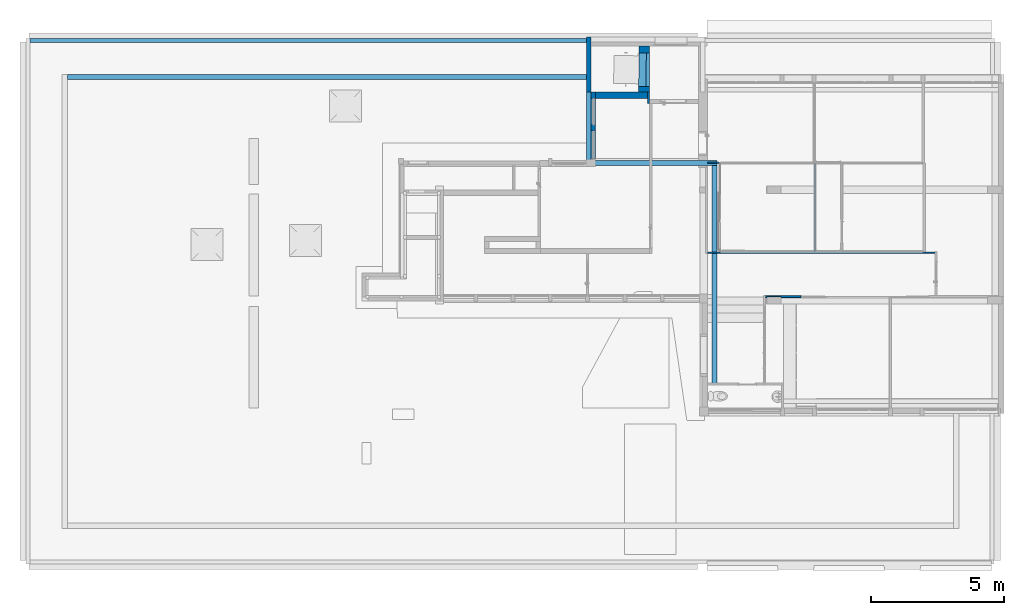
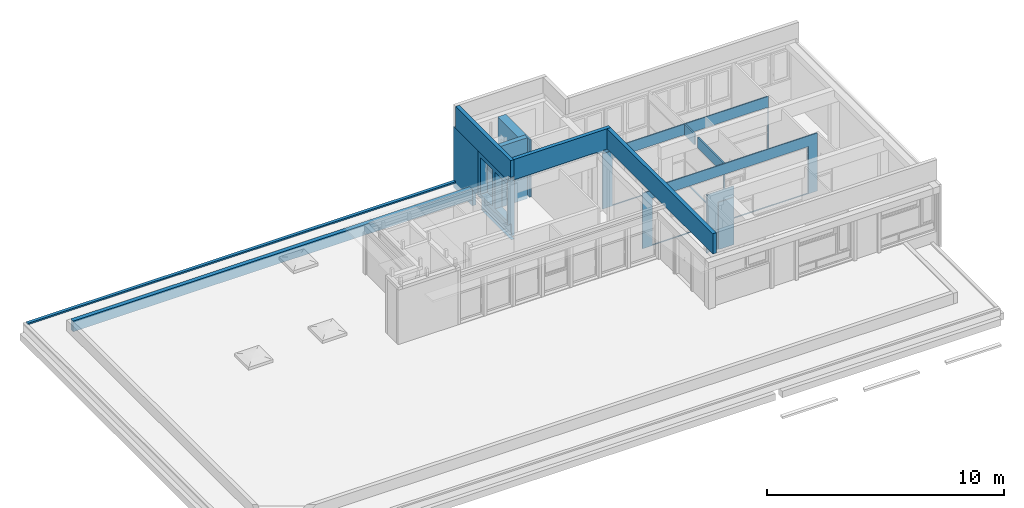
# One storey, part 34 of 49: 14 walls, 3 openings.
"""IFC4 building model written with IfcOpenShell, lengths in metres."""

from ifc_helpers import new_model, entity, si_unit, converted_unit, derived_unit, direction, frame, origin, place, context, subcontext, project, spatial, indexed_curve, outline, extrude, polygons, material, layer, layer_set, type_object, element, save


model = new_model("IFC4")

# Units and contexts
model_context = context("Model", 3, precision=1e-05, world=origin(), true_north=direction((6.12303176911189e-17, 1.0)))
body_context = subcontext(model_context, "Body", "Model", "MODEL_VIEW")
ifc_project = project(units=[si_unit("LENGTHUNIT", "METRE"), si_unit("AREAUNIT", "SQUARE_METRE"), si_unit("VOLUMEUNIT", "CUBIC_METRE"), converted_unit("PLANEANGLEUNIT", "DEGREE", entity("IfcRatioMeasure", 0.0174532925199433), si_unit("PLANEANGLEUNIT", "RADIAN"), dimensions=[0, 0, 0, 0, 0, 0, 0]), si_unit("MASSUNIT", "GRAM", prefix="KILO"), derived_unit("MASSDENSITYUNIT", [(si_unit("MASSUNIT", "GRAM", prefix="KILO"), 1), (si_unit("LENGTHUNIT", "METRE"), -3)]), derived_unit("MOMENTOFINERTIAUNIT", [(si_unit("LENGTHUNIT", "METRE"), 4)]), si_unit("TIMEUNIT", "SECOND"), si_unit("FREQUENCYUNIT", "HERTZ"), si_unit("THERMODYNAMICTEMPERATUREUNIT", "DEGREE_CELSIUS"), derived_unit("THERMALTRANSMITTANCEUNIT", [(si_unit("MASSUNIT", "GRAM", prefix="KILO"), 1), (si_unit("THERMODYNAMICTEMPERATUREUNIT", "KELVIN"), -1), (si_unit("TIMEUNIT", "SECOND"), -3)]), derived_unit("VOLUMETRICFLOWRATEUNIT", [(si_unit("LENGTHUNIT", "METRE"), 3), (si_unit("TIMEUNIT", "SECOND"), -1)]), si_unit("ELECTRICCURRENTUNIT", "AMPERE"), si_unit("ELECTRICVOLTAGEUNIT", "VOLT"), si_unit("POWERUNIT", "WATT"), si_unit("FORCEUNIT", "NEWTON", prefix="KILO"), si_unit("ILLUMINANCEUNIT", "LUX"), si_unit("LUMINOUSFLUXUNIT", "LUMEN"), si_unit("LUMINOUSINTENSITYUNIT", "CANDELA"), derived_unit("USERDEFINED", [(si_unit("MASSUNIT", "GRAM", prefix="KILO"), -1), (si_unit("LENGTHUNIT", "METRE"), -2), (si_unit("TIMEUNIT", "SECOND"), 3), (si_unit("LUMINOUSFLUXUNIT", "LUMEN"), 1)]), derived_unit("LINEARVELOCITYUNIT", [(si_unit("LENGTHUNIT", "METRE"), 1), (si_unit("TIMEUNIT", "SECOND"), -1)]), si_unit("PRESSUREUNIT", "PASCAL"), derived_unit("USERDEFINED", [(si_unit("LENGTHUNIT", "METRE"), -2), (si_unit("MASSUNIT", "GRAM", prefix="KILO"), 1), (si_unit("TIMEUNIT", "SECOND"), -2)]), derived_unit("LINEARFORCEUNIT", [(si_unit("MASSUNIT", "GRAM", prefix="KILO"), 1), (si_unit("LENGTHUNIT", "METRE"), 1), (si_unit("TIMEUNIT", "SECOND"), -2), (si_unit("LENGTHUNIT", "METRE"), -1)]), derived_unit("PLANARFORCEUNIT", [(si_unit("MASSUNIT", "GRAM", prefix="KILO"), 1), (si_unit("LENGTHUNIT", "METRE"), 1), (si_unit("TIMEUNIT", "SECOND"), -2), (si_unit("LENGTHUNIT", "METRE"), -2)])], contexts=[model_context])

# Site, building, storey
site_placement = place(None, origin())
site = spatial("IfcSite", under=ifc_project, at=site_placement, Name="Default", CompositionType="ELEMENT")
building_placement = place(site_placement, origin())
building = spatial("IfcBuilding", under=site, at=building_placement, Name="HOTEL CONSULAIRE BOULOGNE SUR MER", CompositionType="ELEMENT")
storey_placement = place(building_placement, frame((0.0, 0.0, 6.81974152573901)))
storey = spatial("IfcBuildingStorey", under=building, at=storey_placement, Name="Niveau 2", CompositionType="ELEMENT", Elevation=6.81974152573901)

# Wall
ifc_material = material(Name="Mur par défaut", Category="Divers")
ifc_layer_1 = layer(ifc_material, 0.05, Name="Mur par défaut", Category="Divers")
ifc_layer_set_1 = layer_set([ifc_layer_1], Name="Mur de base:Générique - Int.50")
wall_type_1 = type_object("IfcWallType", Name="Mur de base:Générique - Int.50", PredefinedType="NOTDEFINED", material=ifc_layer_set_1)
wall_1_placement = place(storey_placement, frame((19.762075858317, -14.6264237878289, -0.0349999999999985), z_axis=(0.0, 0.0, 1.0), x_axis=(-1.0, 0.0, 0.0)))
element("IfcWall", 1, at=wall_1_placement, inside=storey, type_object=wall_type_1, material=ifc_layer_set_1, Name="Mur de base:Générique - Int.50", ObjectType="Mur de base:Générique - Int.50", PredefinedType="NOTDEFINED", context=body_context, shape_type="Tessellation", body=[
    polygons([(0.0392543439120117, 0.0, -1.08286712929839e-15), (0.0392543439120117, -0.0249999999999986, -1.08286712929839e-15), (0.0392543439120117, -0.0249999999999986, 0.0349999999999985), (0.0392543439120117, 0.0, 0.0349999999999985), (4.031, -0.0249999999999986, -1.08286712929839e-15), (4.101, -0.0249999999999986, -1.08286712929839e-15), (8.09111728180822, -0.0249999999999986, -1.08286712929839e-15), (8.09111728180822, -0.0249999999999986, 2.99200000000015), (4.101, -0.0249999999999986, 2.99200000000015), (4.031, -0.0249999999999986, 2.99200000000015), (0.0392543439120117, -0.0249999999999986, 2.99200000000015), (0.0392543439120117, -0.0249999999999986, 2.437), (4.031, -0.0249999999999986, 2.437), (4.101, -0.0249999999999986, 2.437), (7.597, -0.0249999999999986, 2.437), (7.597, -0.0249999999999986, 0.0349999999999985), (4.101, -0.0249999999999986, 0.0349999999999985), (4.031, -0.0249999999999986, 0.0349999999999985), (8.09111728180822, 0.0250000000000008, -1.08286712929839e-15), (0.0, 0.0250000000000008, -1.08286712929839e-15), (0.0, 0.0250000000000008, 2.99200000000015), (7.73513233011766, 0.0250000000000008, 2.99200000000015), (7.73513233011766, 0.0250000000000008, 2.857), (8.08016716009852, 0.0250000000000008, 2.857), (8.08016716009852, 0.0250000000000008, 2.99200000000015), (8.09111728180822, 0.0250000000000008, 2.99200000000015), (0.0392543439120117, 0.0250000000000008, 2.437), (0.0392543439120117, 0.0250000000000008, 0.0349999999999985), (7.597, 0.0250000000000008, 0.0349999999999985), (7.597, 0.0250000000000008, 2.437), (0.0, 0.0, -1.08286712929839e-15), (8.08016716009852, 0.00666314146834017, 2.99200000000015), (7.73513233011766, 0.00666314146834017, 2.99200000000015), (0.0, 0.0, 2.99200000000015), (0.0392543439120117, 0.0, 2.99200000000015), (0.0392543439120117, 0.0, 2.437), (7.73513233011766, 0.00666314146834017, 2.857), (8.08016716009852, 0.00666314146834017, 2.857)], [[[4, 1, 2, 3]], [[35, 36, 12, 11]], [[21, 20, 31, 34]], [[15, 30, 29, 16]], [[25, 24, 38, 32]], [[3, 2, 5, 6, 7, 8, 9, 10, 11, 12, 13, 14, 15, 16, 17, 18]], [[34, 31, 1, 4, 36, 35]], [[24, 25, 26, 19, 20, 21, 22, 23], [30, 27, 28, 29]], [[38, 37, 33, 32]], [[5, 2, 1, 31, 20, 19, 7, 6]], [[27, 30, 15, 14, 13, 12, 36]], [[10, 9, 8, 26, 25, 32, 33, 22, 21, 34, 35, 11]], [[18, 17, 16, 29, 28, 4, 3]], [[38, 24, 23, 37]], [[7, 19, 26, 8]], [[4, 28, 27, 36]], [[33, 37, 23, 22]]], closed=True),
])

# Wall, opening
wall_2_placement = place(storey_placement, frame((20.2083568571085, -17.9998875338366, -0.0349999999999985), z_axis=(0.0, 0.0, 1.0), x_axis=(-1.0, 0.0, 0.0)))
wall_2 = element("IfcWall", 2, at=wall_2_placement, inside=storey, type_object=wall_type_1, material=ifc_layer_set_1, Name="Mur de base:Générique - Int.50", ObjectType="Mur de base:Générique - Int.50", PredefinedType="NOTDEFINED", context=body_context, shape_type="Tessellation", body=[
    polygons([(6.53205204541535e-17, -0.0249999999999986, -1.08286712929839e-15), (8.53739828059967, -0.0249999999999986, -1.08286712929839e-15), (8.53739828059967, -0.0249999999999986, 3.087), (8.52644815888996, -0.0249999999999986, 3.087), (8.52644815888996, -0.0249999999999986, 2.857), (8.18141332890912, -0.0249999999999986, 2.857), (8.18141332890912, -0.0249999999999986, 2.99200000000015), (6.53205204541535e-17, -0.0249999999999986, 2.99200000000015), (0.446280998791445, -0.0249999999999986, 0.0349999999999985), (0.446280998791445, -0.0249999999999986, 2.437), (8.05288957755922, -0.0250000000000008, 2.437), (8.05288957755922, -0.0250000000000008, 0.0349999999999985), (8.53739828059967, 0.0250000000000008, -1.08286712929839e-15), (-2.35714443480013e-16, 0.0250000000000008, -1.08286712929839e-15), (-2.35714443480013e-16, 0.0250000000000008, 2.99200000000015), (8.18141332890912, 0.0250000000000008, 2.99200000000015), (8.18141332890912, 0.0250000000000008, 2.857), (8.52644815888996, 0.0250000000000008, 2.857), (8.52644815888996, 0.0250000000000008, 3.087), (8.53739828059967, 0.0250000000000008, 3.087), (8.53739828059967, 0.0250000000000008, 2.747), (8.53739828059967, 0.0250000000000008, 0.0349999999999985), (0.446280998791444, 0.0250000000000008, 2.437), (0.446280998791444, 0.0250000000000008, 0.0349999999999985), (8.05288957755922, 0.0249999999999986, 0.0349999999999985), (8.05288957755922, 0.0249999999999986, 2.437)], [[[1, 2, 3, 4, 5, 6, 7, 8], [9, 10, 11, 12]], [[22, 13, 14, 15, 16, 17, 18, 19, 20, 21], [26, 23, 24, 25]], [[2, 1, 14, 13]], [[11, 10, 23, 26]], [[9, 24, 23, 10]], [[2, 13, 22, 21, 20, 3]], [[6, 17, 16, 7]], [[11, 26, 25, 12]], [[14, 1, 8, 15]], [[18, 5, 4, 19]], [[9, 12, 25, 24]], [[4, 3, 20, 19]], [[5, 18, 17, 6]], [[7, 16, 15, 8]]], closed=True),
])
opening_1_placement = place(wall_2_placement, frame((8.05288957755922, 0.177400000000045, 0.0349999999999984)))
element("IfcOpeningElement", 3, at=opening_1_placement, cuts=wall_2, Name="Mur de base:Générique - Int.50", ObjectType="Opening", PredefinedType="OPENING", context=body_context, shape_type="SweptSolid", body=[
    extrude(outline(indexed_curve([(-1.201, -3.80330428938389), (1.201, -3.80330428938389), (1.201, 3.80330428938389), (-1.201, 3.80330428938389), (-1.201, -3.80330428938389)], self_intersect=False)), frame((-3.80330428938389, -0.354800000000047, 1.201), z_axis=(0.0, 1.0, 0.0), x_axis=(0.0, 0.0, 1.0)), (0.0, 0.0, 1.0), 0.3548),
])

# Walls
ifc_layer_2 = layer(ifc_material, 0.07, Name="Mur par défaut", Category="Divers")
ifc_layer_set_2 = layer_set([ifc_layer_2], Name="Mur de base:Générique - Int. 70 mm")
wall_type_2 = type_object("IfcWallType", Name="Mur de base:Générique - Int. 70 mm", PredefinedType="NOTDEFINED", material=ifc_layer_set_2)
wall_3_placement = place(storey_placement, frame((15.696075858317, -17.9553078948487, -0.0349999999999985), z_axis=(0.0, 0.0, 1.0), x_axis=(0.0, 1.0, 0.0)))
element("IfcWall", 4, at=wall_3_placement, inside=storey, type_object=wall_type_2, material=ifc_layer_set_2, Name="Mur de base:Générique - Int. 70 mm", ObjectType="Mur de base:Générique - Int. 70 mm", PredefinedType="NOTDEFINED", context=body_context, shape_type="Tessellation", body=[
    polygons([(3.30288410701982, -0.0349999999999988, -1.08286712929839e-15), (3.30288410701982, 0.0350000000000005, -1.08286712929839e-15), (3.30288410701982, 0.0350000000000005, 0.0349999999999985), (3.30288410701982, -0.0349999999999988, 0.0349999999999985), (0.0, -0.0349999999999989, -1.08286712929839e-15), (0.024000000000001, -0.0349999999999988, 0.0349999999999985), (0.024000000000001, -0.0349999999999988, 2.437), (2.18739808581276, -0.0349999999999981, 2.437), (2.18739808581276, -0.0349999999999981, 2.99200000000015), (0.0, -0.0349999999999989, 2.99200000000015), (0.0, 0.0350000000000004, -1.08286712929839e-15), (0.0, 0.0350000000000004, 2.99200000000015), (2.18739808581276, 0.0350000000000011, 2.99200000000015), (2.18739808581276, 0.0350000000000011, 2.437), (0.024000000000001, 0.0350000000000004, 2.437), (0.024000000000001, 0.0350000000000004, 0.0349999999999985)], [[[4, 1, 2, 3]], [[6, 16, 15, 7]], [[8, 14, 13, 9]], [[5, 1, 4, 6, 7, 8, 9, 10]], [[13, 14, 15, 16, 3, 2, 11, 12]], [[1, 5, 11, 2]], [[8, 7, 15, 14]], [[5, 10, 12, 11]], [[4, 3, 16, 6]], [[13, 12, 10, 9]]], closed=True),
    polygons([(2.45739808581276, -0.0349999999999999, 2.437), (3.30288410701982, -0.0349999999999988, 2.437), (3.30288410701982, -0.0349999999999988, 2.99200000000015), (2.45739808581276, -0.0349999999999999, 2.99200000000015), (3.30288410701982, 0.0350000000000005, 2.437), (2.45739808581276, 0.0349999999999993, 2.437), (2.45739808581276, 0.0349999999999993, 2.99200000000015), (3.30288410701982, 0.0350000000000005, 2.99200000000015)], [[[4, 1, 2, 3]], [[8, 5, 6, 7]], [[2, 1, 6, 5]], [[8, 7, 4, 3]], [[3, 2, 5, 8]], [[4, 7, 6, 1]]], closed=True),
])
ifc_layer_3 = layer(ifc_material, 0.18, Name="Mur par défaut", Category="Divers")
ifc_layer_set_3 = layer_set([ifc_layer_3], Name="Mur de base:Générique - Int.180")
wall_type_3 = type_object("IfcWallType", Name="Mur de base:Générique - Int.180", PredefinedType="NOTDEFINED", material=ifc_layer_set_3)
wall_4_placement = place(storey_placement, frame((7.21898026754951, -9.91032416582, -0.18799999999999), z_axis=(0.0, 0.0, 1.0), x_axis=(0.0, -1.0, 0.0)))
element("IfcWall", 5, at=wall_4_placement, inside=storey, type_object=wall_type_3, material=ifc_layer_set_3, Name="Mur de base:Générique - Int.180", ObjectType="Mur de base:Générique - Int.180", PredefinedType="NOTDEFINED", context=body_context, shape_type="Tessellation", body=[
    polygons([(2.06046714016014, -0.0899999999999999, 3.14499999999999), (0.0, -0.09, 3.14499999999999), (0.0, -0.09, 0.0), (0.164308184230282, -0.0899999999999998, 0.0), (0.330000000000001, -0.0899999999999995, 0.0), (1.59530955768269, -0.0899999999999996, 0.0), (1.59530955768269, -0.0899999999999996, 0.330000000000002), (1.59530955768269, -0.0899999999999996, 0.830000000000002), (2.06046714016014, -0.0899999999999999, 0.830000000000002), (-2.16573425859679e-15, 0.0900000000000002, 3.14499999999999), (0.329999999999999, 0.0900000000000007, 3.14499999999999), (2.06046714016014, 0.0900000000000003, 3.14499999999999), (2.06046714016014, 0.0900000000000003, 0.830000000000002), (1.59530955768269, 0.0900000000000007, 0.830000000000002), (1.59530955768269, 0.0900000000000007, 0.0), (0.330000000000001, 0.0900000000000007, 0.0), (0.16430818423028, 0.0900000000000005, 0.0), (-2.16573425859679e-15, 0.0900000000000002, 0.0)], [[[3, 4, 5, 6, 7, 8, 9, 1, 2]], [[12, 13, 14, 15, 16, 17, 18, 10, 11]], [[5, 4, 3, 18, 17, 16, 15, 6]], [[13, 9, 8, 14]], [[2, 1, 12, 11, 10]], [[3, 2, 10, 18]], [[9, 13, 12, 1]], [[7, 6, 15, 14, 8]]], closed=True),
])
wall_5_placement = place(storey_placement, frame((7.21898026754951, -10.09032416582, 2.957), z_axis=(0.0, 0.0, 1.0), x_axis=(0.0, -1.0, 0.0)))
element("IfcWall", 6, at=wall_5_placement, inside=storey, type_object=wall_type_3, material=ifc_layer_set_3, Name="Mur de base:Générique - Int.180", ObjectType="Mur de base:Générique - Int.180", PredefinedType="NOTDEFINED", context=body_context, shape_type="Tessellation", body=[
    polygons([(4.63276276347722, -0.0899999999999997, 1.14040452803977), (0.0, -0.0899999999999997, 1.14040452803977), (0.0, -0.0899999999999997, 2.16573425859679e-15), (4.47258674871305, -0.0899999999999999, 2.16573425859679e-15), (4.47258674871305, -0.0899999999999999, 0.269999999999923), (4.63276276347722, -0.0899999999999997, 0.269999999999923), (-2.16573425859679e-15, 0.0900000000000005, 1.14040452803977), (4.45276276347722, 0.0900000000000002, 1.14040452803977), (4.63276276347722, 0.0900000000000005, 1.14040452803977), (4.63276276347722, 0.0900000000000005, 0.269999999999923), (4.54276276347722, 0.0900000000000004, 0.269999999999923), (4.54276276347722, 0.0900000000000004, 0.330000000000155), (-2.16573425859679e-15, 0.0900000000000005, 0.330000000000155), (0.0, 4.70844598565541e-15, 2.16573425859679e-15), (4.47258674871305, 4.49526745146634e-15, 2.16573425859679e-15), (0.0, 6.8741802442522e-15, 0.330000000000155), (4.47258674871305, 4.49526745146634e-15, 0.269999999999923), (4.54276276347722, 4.61085583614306e-15, 0.269999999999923), (4.54276276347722, 4.61085583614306e-15, 0.330000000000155)], [[[2, 3, 4, 5, 6, 1]], [[12, 13, 7, 8, 9, 10, 11]], [[17, 15, 14, 16, 19, 18]], [[4, 3, 14, 15]], [[18, 11, 10, 6, 5, 17]], [[13, 12, 19, 16]], [[2, 1, 9, 8, 7]], [[16, 14, 3, 2, 7, 13]], [[11, 18, 19, 12]], [[5, 4, 15, 17]], [[1, 6, 10, 9]]], closed=True),
])
wall_6_placement = place(storey_placement, frame((12.0269435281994, -14.6330869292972, 2.957), z_axis=(0.0, 0.0, 1.0), x_axis=(-1.0, 0.0, 0.0)))
element("IfcWall", 7, at=wall_6_placement, inside=storey, type_object=wall_type_3, material=ifc_layer_set_3, Name="Mur de base:Générique - Int.180", ObjectType="Mur de base:Générique - Int.180", PredefinedType="NOTDEFINED", context=body_context, shape_type="Tessellation", body=[
    polygons([(4.71796326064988, -0.0900000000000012, 1.14040452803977), (-5.86566025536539e-16, -0.0900000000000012, 1.14040452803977), (-5.86566025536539e-16, -0.0900000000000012, 0.330000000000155), (4.71796326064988, -0.0900000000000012, 0.330000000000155), (9.28580505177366e-16, 0.089999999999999, 1.14040452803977), (0.179999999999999, 0.089999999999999, 1.14040452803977), (4.71796326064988, 0.089999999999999, 1.14040452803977), (4.71796326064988, 0.089999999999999, 0.269999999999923), (4.71796326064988, 0.089999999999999, 0.0950000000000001), (0.645034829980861, 0.089999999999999, 0.0950000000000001), (0.645034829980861, 0.089999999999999, 2.16573425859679e-15), (0.345034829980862, 0.0900000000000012, 2.16573425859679e-15), (0.345034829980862, 0.0900000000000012, 0.0950000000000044), (0.179999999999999, 0.089999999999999, 0.0950000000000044), (0.09, 0.089999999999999, 0.0950000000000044), (0.0900000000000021, 0.089999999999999, 0.330000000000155), (9.28580505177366e-16, 0.089999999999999, 0.330000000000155), (4.71796326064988, 0.0, 2.16573425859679e-15), (0.345034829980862, 2.16573425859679e-15, 2.16573425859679e-15), (0.645034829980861, 0.00482398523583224, 2.16573425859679e-15), (0.673675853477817, 0.00482398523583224, 2.16573425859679e-15), (4.71796326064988, 0.00482398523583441, 2.16573425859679e-15), (4.71796326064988, 0.0, 0.330000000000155), (4.71796326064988, 0.0, 0.269999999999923), (4.71796326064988, 0.00482398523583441, 0.0950000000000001), (0.0900000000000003, 0.0, 0.330000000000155), (0.0900000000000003, 0.0, 0.0950000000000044), (0.345034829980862, 0.0, 0.0950000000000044), (0.645034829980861, 0.00482398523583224, 0.0950000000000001)], [[[2, 3, 4, 1]], [[28, 19, 18, 24, 23, 26, 27]], [[13, 14, 15, 16, 17, 5, 6, 7, 8, 9, 10, 11, 12]], [[21, 20, 29, 25, 22]], [[22, 18, 19, 12, 11, 20, 21]], [[26, 23, 4, 3, 17, 16]], [[14, 13, 28, 27, 15]], [[29, 10, 9, 25]], [[2, 1, 7, 6, 5]], [[8, 7, 1, 4, 23, 24, 18, 22, 25, 9]], [[29, 20, 11, 10]], [[5, 17, 3, 2]], [[15, 27, 26, 16]], [[12, 19, 28, 13]]], closed=True),
])
wall_7_placement = place(storey_placement, frame((11.9369435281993, -23.6621980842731, 3.052), z_axis=(0.0, 0.0, 1.0), x_axis=(0.0, 1.0, 0.0)))
element("IfcWall", 8, at=wall_7_placement, inside=storey, type_object=wall_type_3, material=ifc_layer_set_3, Name="Mur de base:Générique - Int.180", ObjectType="Mur de base:Générique - Int.180", PredefinedType="NOTDEFINED", context=body_context, shape_type="Tessellation", body=[
    polygons([(8.93911115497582, -0.0900000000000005, 1.04540452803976), (0.179999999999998, -0.0900000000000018, 1.04540452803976), (0.0, -0.0900000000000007, 1.04540452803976), (0.0, -0.0900000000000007, 0.0), (0.0899999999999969, -0.0900000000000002, 0.0), (0.0899999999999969, -0.0900000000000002, 0.23500000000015), (0.179999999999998, -0.0900000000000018, 0.23500000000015), (8.93911115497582, -0.0900000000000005, 0.23500000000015), (0.0, 0.0899999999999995, 1.04540452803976), (8.93911115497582, 0.0899999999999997, 1.04540452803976), (8.93911115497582, 0.0899999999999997, 0.0), (4.09728372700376, 0.0899999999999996, 0.0), (3.94728372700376, 0.0899999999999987, 0.0), (0.0, 0.0899999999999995, 0.0), (8.93911115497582, -1.47587684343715e-15, 0.23500000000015), (8.93911115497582, -1.47587684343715e-15, 0.0), (0.0899999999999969, 1.01470421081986e-15, 0.23500000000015), (0.0899999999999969, 1.01470421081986e-15, 0.0)], [[[4, 5, 6, 7, 8, 1, 2, 3]], [[18, 16, 15, 17]], [[10, 11, 12, 13, 14, 9]], [[2, 1, 10, 9, 3]], [[9, 14, 4, 3]], [[15, 16, 11, 10, 1, 8]], [[5, 18, 17, 6]], [[7, 6, 17, 15, 8]], [[18, 5, 4, 14, 13, 12, 11, 16]]], closed=True),
])
ifc_layer_4 = layer(ifc_material, 0.08, Name="Mur par défaut", Category="Divers")
ifc_layer_set_4 = layer_set([ifc_layer_4], Name="Mur de base:Générique - Int. 80")
wall_type_4 = type_object("IfcWallType", Name="Mur de base:Générique - Int. 80", PredefinedType="NOTDEFINED", material=ifc_layer_set_4)
wall_8_placement = place(storey_placement, frame((15.1898070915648, -19.643155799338, -0.0349999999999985), z_axis=(0.0, 0.0, 1.0), x_axis=(-1.0, 0.0, 0.0)))
element("IfcWall", 9, at=wall_8_placement, inside=storey, type_object=wall_type_4, material=ifc_layer_set_4, Name="Mur de base:Générique - Int. 80", ObjectType="Mur de base:Générique - Int. 80", PredefinedType="NOTDEFINED", context=body_context, shape_type="Tessellation", body=[
    polygons([(-1.10596338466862e-15, 0.0399999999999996, -1.08286712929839e-15), (-1.10596338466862e-15, 0.0399999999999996, 2.437), (0.757594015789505, 0.0399999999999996, 2.437), (0.757594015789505, 0.0399999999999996, -1.08286712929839e-15), (1.30008140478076, 0.00275400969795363, 2.437), (1.30008140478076, 0.0399999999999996, 2.437), (1.28759401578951, 0.0399999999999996, 2.437), (1.28759401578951, 0.00275400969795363, 2.437), (-8.55001503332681e-16, -0.0399999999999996, -1.08286712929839e-15), (1.34075742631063, -0.0399999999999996, -1.08286712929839e-15), (1.34075742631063, -0.0399999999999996, 2.99200000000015), (-8.55001503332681e-16, -0.0399999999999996, 2.99200000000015), (1.34075742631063, 0.0399999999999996, -1.08286712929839e-15), (1.28759401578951, 0.0399999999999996, -1.08286712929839e-15), (1.30008140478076, 0.0399999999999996, 2.99200000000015), (1.34075742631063, 0.0399999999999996, 2.99200000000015), (0.757594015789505, 0.00275400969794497, -1.08286712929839e-15), (1.28759401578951, 0.00275400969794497, -1.08286712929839e-15), (-9.89121837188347e-16, 0.00275400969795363, 2.99200000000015), (-9.89121837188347e-16, 0.00275400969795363, 2.437), (1.30008140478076, 0.00275400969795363, 2.99200000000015), (0.757594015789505, 0.00275400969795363, 2.437)], [[[3, 4, 1, 2]], [[16, 13, 14, 7, 6, 15]], [[22, 20, 19, 21, 5, 8, 18, 17]], [[8, 5, 6, 7]], [[20, 22, 3, 2]], [[21, 19, 12, 11, 16, 15]], [[12, 9, 10, 11]], [[9, 1, 4, 17, 18, 14, 13, 10]], [[9, 12, 19, 20, 2, 1]], [[5, 21, 15, 6]], [[14, 18, 8, 7]], [[10, 13, 16, 11]], [[17, 4, 3, 22]]], closed=True),
])
wall_9_placement = place(storey_placement, frame((9.46095857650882, -11.9707913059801, 0.0), z_axis=(0.0, 0.0, 1.0), x_axis=(0.0, -1.0, 0.0)))
element("IfcWall", 10, at=wall_9_placement, inside=storey, type_object=wall_type_4, material=ifc_layer_set_4, Name="Mur de base:Générique - Int. 80", ObjectType="Mur de base:Générique - Int. 80", PredefinedType="NOTDEFINED", context=body_context, shape_type="Tessellation", body=[
    polygons([(0.430986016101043, -0.0400000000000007, 2.95700000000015), (0.23, -0.0400000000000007, 2.95700000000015), (0.0, -0.0400000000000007, 2.95700000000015), (0.0, -0.0400000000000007, 0.0), (0.430986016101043, -0.0400000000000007, 0.0), (2.16573425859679e-15, 0.0399999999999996, 2.95700000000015), (0.430986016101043, 0.0399999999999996, 2.95700000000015), (0.430986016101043, 0.0399999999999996, 0.0), (2.16573425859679e-15, 0.0399999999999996, 0.0), (2.16573425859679e-15, 0.0269990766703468, 2.95700000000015), (2.16573425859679e-15, 0.0269990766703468, 0.0)], [[[3, 4, 5, 1, 2]], [[7, 8, 9, 6]], [[1, 5, 8, 7]], [[10, 6, 9, 11, 4, 3]], [[2, 1, 7, 6, 10, 3]], [[8, 5, 4, 11, 9]]], closed=True),
])
ifc_layer_5 = layer(ifc_material, 0.2, Name="Mur par défaut", Category="Divers")
ifc_layer_set_5 = layer_set([ifc_layer_5], Name="Mur de base:Générique - Ext. 200 mm")
wall_type_5 = type_object("IfcWallType", Name="Mur de base:Générique - Ext. 200 mm", PredefinedType="NOTDEFINED", material=ifc_layer_set_5)
wall_10_placement = place(storey_placement, frame((-12.3498681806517, -11.4056337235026, 0.142000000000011)))
element("IfcWall", 11, at=wall_10_placement, inside=storey, type_object=wall_type_5, material=ifc_layer_set_5, Name="Mur de base:Générique - Ext. 200 mm", ObjectType="Mur de base:Générique - Ext. 200 mm", PredefinedType="NOTDEFINED", context=body_context, shape_type="Tessellation", body=[
    polygons([(19.4788484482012, -0.0999999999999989, 0.546999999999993), (1.30481203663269e-15, -0.0999999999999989, 0.546999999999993), (3.47054629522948e-15, -0.0999999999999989, 1.08286712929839e-15), (19.4788484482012, -0.0999999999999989, 1.08286712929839e-15), (4.97360876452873e-15, 0.100000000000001, 0.546999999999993), (19.4788484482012, 0.100000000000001, 0.546999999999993), (19.4788484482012, 0.100000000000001, 1.08286712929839e-15), (4.97360876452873e-15, 0.100000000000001, 1.08286712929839e-15)], [[[2, 3, 4, 1]], [[6, 7, 8, 5]], [[2, 1, 6, 5]], [[8, 3, 2, 5]], [[4, 7, 6, 1]], [[7, 4, 3, 8]]], closed=True),
])
ifc_layer_6 = layer(ifc_material, 0.23, Name="Mur par défaut", Category="Divers")
ifc_layer_set_6 = layer_set([ifc_layer_6], Name="Mur de base:Générique - Int.230")
wall_type_6 = type_object("IfcWallType", Name="Mur de base:Générique - Int.230", PredefinedType="NOTDEFINED", material=ifc_layer_set_6)
wall_11_placement = place(storey_placement, frame((9.42095857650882, -12.0857913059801, -0.187999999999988), z_axis=(0.0, 0.0, 1.0), x_axis=(-1.0, 0.0, 0.0)))
element("IfcWall", 12, at=wall_11_placement, inside=storey, type_object=wall_type_6, material=ifc_layer_set_6, Name="Mur de base:Générique - Int.230", ObjectType="Mur de base:Générique - Int.230", PredefinedType="NOTDEFINED", context=body_context, shape_type="Tessellation", body=[
    polygons([(1.30514246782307e-17, -0.115, 0.0), (0.333019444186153, -0.115, 0.0), (1.95197830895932, -0.115, 0.0), (1.95197830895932, -0.115, 3.14500000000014), (0.333019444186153, -0.115, 3.14500000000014), (1.30514246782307e-17, -0.115, 3.14500000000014), (1.30514246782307e-17, -0.115, 0.152999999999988), (-6.94088053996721e-16, 0.115, 0.0), (-6.94088053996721e-16, 0.115, 3.14500000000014), (1.95197830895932, 0.115, 3.14500000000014), (1.95197830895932, 0.115, 2.91273410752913), (1.95197830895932, 0.115, 1.01273410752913), (1.95197830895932, 0.115, 0.187999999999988), (1.95197830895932, 0.115, 0.152999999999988), (1.95197830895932, 0.115, 0.0)], [[[7, 1, 2, 3, 4, 5, 6]], [[13, 14, 15, 8, 9, 10, 11, 12]], [[2, 1, 8, 15, 3]], [[9, 8, 1, 7, 6]], [[3, 15, 14, 13, 12, 11, 10, 4]], [[4, 10, 9, 6, 5]]], closed=True),
])
ifc_layer_7 = layer(ifc_material, 0.4, Name="Mur par défaut", Category="Divers")
ifc_layer_set_7 = layer_set([ifc_layer_7], Name="Mur de base:Générique - Int.400")
wall_type_7 = type_object("IfcWallType", Name="Mur de base:Générique - Int.400", PredefinedType="NOTDEFINED", material=ifc_layer_set_7)
wall_12_placement = place(storey_placement, frame((9.28792987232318, -11.9727158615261, -0.18799999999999), z_axis=(0.0, 0.0, 1.0), x_axis=(0.00962277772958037, 0.999953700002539, 0.0)))
element("IfcWall", 13, at=wall_12_placement, inside=storey, type_object=wall_type_7, material=ifc_layer_set_7, Name="Mur de base:Générique - Int.400", ObjectType="Mur de base:Générique - Int.400", PredefinedType="NOTDEFINED", context=body_context, shape_type="Tessellation", body=[
    polygons([(1.46788770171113, -0.199999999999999, 2.18799999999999), (1.46788770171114, -0.199999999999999, 0.18799999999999), (1.73439655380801, -0.199999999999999, 0.18799999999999), (1.73439655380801, -0.199999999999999, 3.14500000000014), (0.00384928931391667, -0.2, 3.14500000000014), (0.0038492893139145, -0.2, 0.18799999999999), (0.212880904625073, -0.199999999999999, 0.18799999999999), (0.212880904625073, -0.199999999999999, 2.18799999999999), (0.00264638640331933, -0.0749999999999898, 0.18799999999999), (0.212880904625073, -0.0749999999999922, 0.18799999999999), (0.00320457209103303, -0.133004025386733, 0.18799999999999), (0.00384928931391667, -0.2, 0.0), (1.73439655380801, -0.199999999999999, 0.0), (1.73439655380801, -0.199999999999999, 0.00299999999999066), (0.00384928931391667, -0.2, 0.00299999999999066), (1.73054726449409, 0.200000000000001, 0.0), (2.16573425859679e-15, 0.200000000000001, 0.0), (2.16573425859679e-15, 0.200000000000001, 3.14500000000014), (1.73054726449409, 0.200000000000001, 3.14500000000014), (1.46788770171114, 0.2, 0.18799999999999), (1.46788770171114, 0.2, 2.18799999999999), (0.212880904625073, 0.2, 2.18799999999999), (0.212880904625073, 0.2, 0.18799999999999), (0.00320457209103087, -0.133004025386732, 0.0), (1.46788770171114, -0.0750000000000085, 0.18799999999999), (1.73319365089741, -0.0750000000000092, 0.18799999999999), (1.73319365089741, -0.0750000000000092, 0.15299999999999), (1.73319365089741, -0.0750000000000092, 0.00299999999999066), (0.00264638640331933, -0.0749999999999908, 0.00299999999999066), (0.00320457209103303, -0.133004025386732, 3.14500000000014)], [[[6, 7, 8, 1, 2, 3, 4, 5]], [[15, 12, 13, 14]], [[25, 10, 9, 29, 28, 27, 26]], [[11, 9, 10, 7, 6]], [[13, 12, 24, 17, 16]], [[22, 21, 1, 8]], [[2, 25, 26, 3]], [[16, 17, 18, 19], [21, 22, 23, 20]], [[21, 20, 25, 2, 1]], [[23, 22, 8, 7, 10]], [[20, 23, 10, 25]], [[19, 18, 30, 5, 4]], [[28, 29, 15, 14]], [[26, 27, 28, 14, 13, 16, 19, 4, 3]], [[11, 6, 5, 30, 18, 17, 24, 12, 15, 29, 9]]], closed=True),
])
ifc_layer_8 = layer(ifc_material, 0.15, Name="Mur par défaut", Category="Divers")
ifc_layer_set_8 = layer_set([ifc_layer_8], Name="Mur de base:Générique - Ext. 150 mm")
wall_type_8 = type_object("IfcWallType", Name="Mur de base:Générique - Ext. 150 mm", PredefinedType="NOTDEFINED", material=ifc_layer_set_8)
wall_13_placement = place(storey_placement, frame((-13.7577173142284, -10.0322384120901, 0.142000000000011)))
element("IfcWall", 14, at=wall_13_placement, inside=storey, type_object=wall_type_8, material=ifc_layer_set_8, Name="Mur de base:Générique - Ext. 150 mm", ObjectType="Mur de base:Générique - Ext. 150 mm", PredefinedType="NOTDEFINED", context=body_context, shape_type="Tessellation", body=[
    polygons([(20.8866975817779, -0.0750000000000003, 0.0750000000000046), (9.06932734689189e-16, -0.0750000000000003, 0.0750000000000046), (9.06932734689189e-16, -0.0750000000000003, 1.08286712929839e-15), (20.8866975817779, -0.0750000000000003, 1.08286712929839e-15), (4.11353053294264e-16, 0.0750000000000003, 0.0750000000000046), (20.8866975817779, 0.0750000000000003, 0.0750000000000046), (20.8866975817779, 0.0750000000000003, 1.08286712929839e-15), (4.11353053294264e-16, 0.0750000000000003, 1.08286712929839e-15)], [[[2, 3, 4, 1]], [[6, 7, 8, 5]], [[2, 1, 6, 5]], [[8, 3, 2, 5]], [[4, 7, 6, 1]], [[4, 3, 8, 7]]], closed=True),
])

# Wall, openings
ifc_layer_9 = layer(ifc_material, 0.34, Name="Mur par défaut", Category="Divers")
ifc_layer_set_9 = layer_set([ifc_layer_9], Name="Mur de base:Générique - Ext.340")
wall_type_9 = type_object("IfcWallType", Name="Mur de base:Générique - Ext.340", PredefinedType="NOTDEFINED", material=ifc_layer_set_9)
wall_14_placement = place(storey_placement, frame((7.2989802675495, -11.9707913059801, -0.18799999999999), z_axis=(0.0, 0.0, 1.0), x_axis=(0.0, -1.0, 0.0)))
wall_14 = element("IfcWall", 15, at=wall_14_placement, inside=storey, type_object=wall_type_9, material=ifc_layer_set_9, Name="Mur de base:Générique - Ext.340", ObjectType="Mur de base:Générique - Ext.340", PredefinedType="NOTDEFINED", context=body_context, shape_type="Tessellation", body=[
    polygons([(2.52211960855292, 0.17, 3.14499999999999), (2.52211960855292, -0.169999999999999, 3.14499999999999), (2.52211960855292, -0.169999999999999, 0.830000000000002), (2.52211960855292, 0.00999999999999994, 0.830000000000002), (2.52211960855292, 0.00999999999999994, 0.18799999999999), (2.52211960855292, 0.17, 0.18799999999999), (2.16573425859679e-15, -0.169999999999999, 3.14499999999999), (2.16573425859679e-15, -0.169999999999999, 0.830000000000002), (1.44911960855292, -0.169999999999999, 1.01273410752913), (1.44911960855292, -0.169999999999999, 2.91273410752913), (2.48229562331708, -0.169999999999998, 2.91273410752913), (2.48229562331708, -0.169999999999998, 1.01273410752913), (0.230000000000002, -0.169999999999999, 1.01273410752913), (0.230000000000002, -0.169999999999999, 2.91273410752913), (1.23474507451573, -0.169999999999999, 2.91273410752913), (1.23474507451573, -0.169999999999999, 1.01273410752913), (2.52211960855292, 0.17, 0.0), (0.23, 0.170000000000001, 0.0), (2.16573425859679e-15, 0.170000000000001, 0.0), (2.16573425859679e-15, 0.170000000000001, 3.14499999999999), (0.230000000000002, 0.170000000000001, 3.14499999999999), (0.23, 0.170000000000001, 0.18799999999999), (0.23, 0.170000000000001, 0.15299999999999), (0.115000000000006, 0.170000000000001, 0.152999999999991), (0.115000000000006, 0.170000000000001, 0.00299999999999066), (2.52211960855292, 0.17, 0.00299999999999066), (1.44911960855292, 0.170000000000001, 2.91273410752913), (1.44911960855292, 0.170000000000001, 1.01273410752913), (2.48229562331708, 0.170000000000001, 1.01273410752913), (2.48229562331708, 0.170000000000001, 2.91273410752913), (0.23, 0.170000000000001, 2.91273410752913), (0.23, 0.170000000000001, 1.01273410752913), (1.23474507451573, 0.17, 1.01273410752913), (1.23474507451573, 0.17, 2.91273410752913), (2.52211960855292, 0.00999999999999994, 0.0), (2.16573425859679e-15, 0.0100000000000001, 0.0), (2.52211960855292, 0.00999999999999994, 0.00299999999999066), (2.16573425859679e-15, 0.0100000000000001, 3.14499999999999), (0.0, 0.0100000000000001, 0.830000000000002), (0.115000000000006, 0.0100000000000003, 0.00299999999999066), (0.115000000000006, 0.0100000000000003, 0.15299999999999), (0.23, 0.0100000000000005, 0.15299999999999), (0.23, 0.0100000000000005, 0.18799999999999)], [[[2, 3, 4, 5, 6, 1]], [[37, 35, 17, 26]], [[10, 9, 28, 27]], [[14, 13, 32, 31]], [[41, 40, 25, 24]], [[43, 42, 23, 22]], [[8, 3, 2, 7], [13, 14, 15, 16], [9, 10, 11, 12]], [[43, 5, 4, 39, 36, 35, 37, 40, 41, 42]], [[18, 19, 20, 21, 1, 6, 22, 23, 24, 25, 26, 17], [32, 33, 34, 31], [27, 28, 29, 30]], [[35, 36, 19, 18, 17]], [[10, 27, 30, 11]], [[14, 31, 34, 15]], [[39, 4, 3, 8]], [[42, 41, 24, 23]], [[6, 5, 43, 22]], [[38, 7, 2, 1, 21, 20]], [[9, 12, 29, 28]], [[13, 16, 33, 32]], [[40, 37, 26, 25]], [[38, 20, 19, 36, 39, 8, 7]], [[11, 30, 29, 12]], [[15, 34, 33, 16]]], closed=True),
])
opening_2_placement = place(wall_14_placement, frame((2.48229562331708, -0.322399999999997, 1.01273410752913)))
element("IfcOpeningElement", 16, at=opening_2_placement, cuts=wall_14, Name="Mur de base:Générique - Ext.340", ObjectType="Opening", PredefinedType="OPENING", context=body_context, shape_type="SweptSolid", body=[
    extrude(outline(indexed_curve([(-0.950000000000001, -0.516588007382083), (0.95, -0.516588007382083), (0.95, 0.516588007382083), (-0.950000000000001, 0.516588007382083), (-0.950000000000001, -0.516588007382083)], self_intersect=False)), frame((-0.516588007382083, 0.0, 0.950000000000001), z_axis=(0.0, 1.0, 0.0), x_axis=(0.0, 0.0, 1.0)), (0.0, 0.0, 1.0), 0.6448),
])
opening_3_placement = place(wall_14_placement, frame((1.23474507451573, -0.322399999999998, 1.01273410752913)))
element("IfcOpeningElement", 17, at=opening_3_placement, cuts=wall_14, Name="Mur de base:Générique - Ext.340", ObjectType="Opening", PredefinedType="OPENING", context=body_context, shape_type="SweptSolid", body=[
    extrude(outline(indexed_curve([(-0.950000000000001, -0.502372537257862), (0.95, -0.502372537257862), (0.95, 0.502372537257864), (-0.950000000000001, 0.502372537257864), (-0.950000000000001, -0.502372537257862)], self_intersect=False)), frame((-0.502372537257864, 0.0, 0.950000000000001), z_axis=(0.0, 1.0, 0.0), x_axis=(0.0, 0.0, 1.0)), (0.0, 0.0, 1.0), 0.6448),
])

save(model, "model.ifc")
